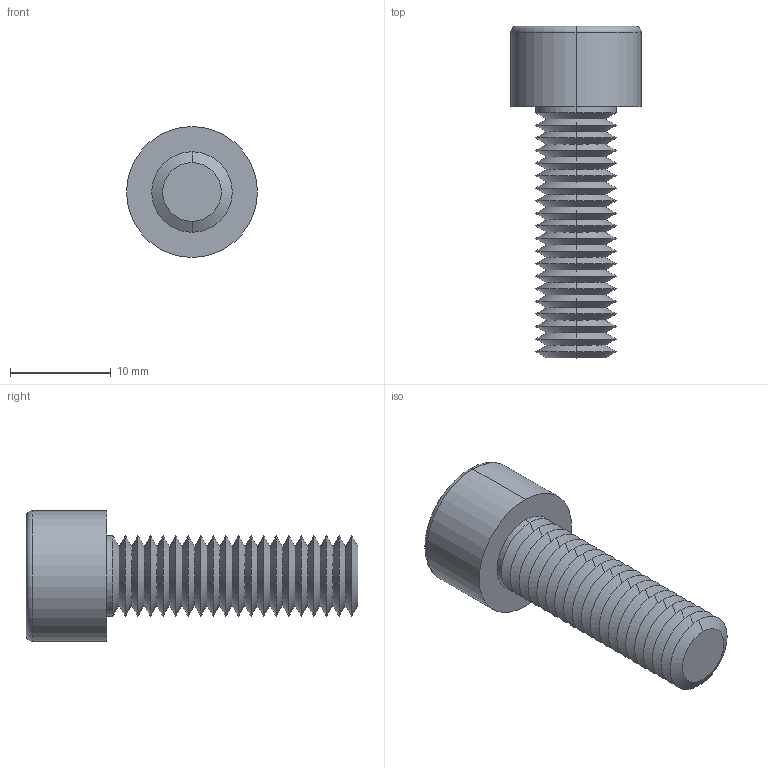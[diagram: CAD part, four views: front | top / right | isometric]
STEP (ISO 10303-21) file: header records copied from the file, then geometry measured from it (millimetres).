
FILE_DESCRIPTION (( 'STEP AP203' ), '1' );
FILE_NAME ('91N.080.0250.step', '2025-05-20T08:54:04', ( '' ), ( '' ), 'SwSTEP 2.0', 'SolidWorks 2019', '' );
FILE_SCHEMA (( 'CONFIG_CONTROL_DESIGN' ));
Length unit declared in the file: millimetre
Products named in the file (1): 91N.080.0250
Bounding box: 13 x 33 x 13 mm (x, y, z)
Volume: 1809.8 mm3; surface area: 1760.3 mm2
Topology: 1 solids, 1 shells, 108 faces, 215 edges, 109 vertices
Faces by surface type: cone 87, plane 15, cylinder 4, torus 2
Entity records: 2778 total; most frequent: DIRECTION 527, CARTESIAN_POINT 458, ORIENTED_EDGE 426, EDGE_CURVE 213, AXIS2_PLACEMENT_3D 212, EDGE_LOOP 110, VERTEX_POINT 109, ADVANCED_FACE 108
